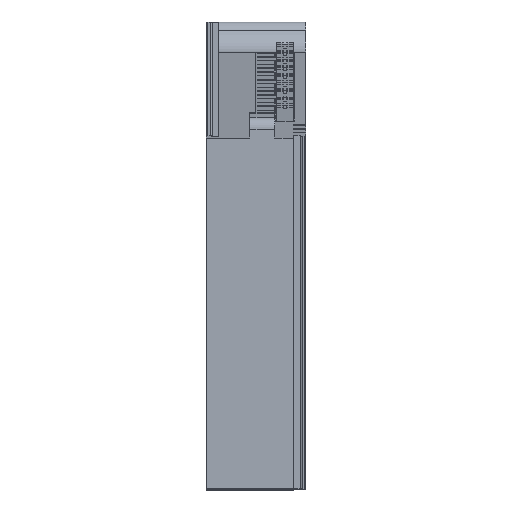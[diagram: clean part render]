
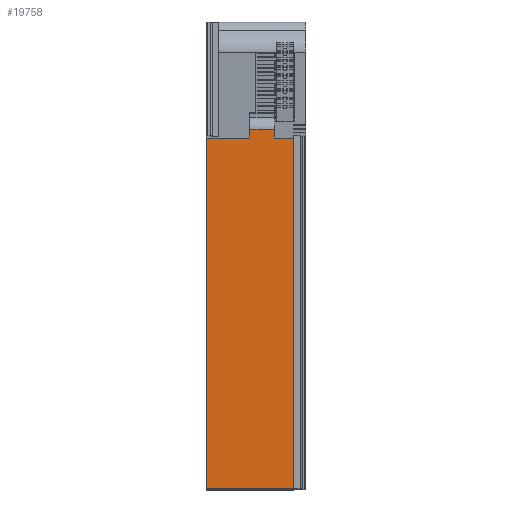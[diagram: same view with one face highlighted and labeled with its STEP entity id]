
A CAD part, top view. The second image highlights one B-rep face of the part: STEP entity #19758.
In plain terms, the highlighted planar face has unit normal (0, 0, 1).
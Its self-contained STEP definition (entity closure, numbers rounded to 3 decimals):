
#704 = VERTEX_POINT ( 'NONE', #16949 ) ;
#857 = CARTESIAN_POINT ( 'NONE',  ( 1887.845, 56.25, -1204.638 ) ) ;
#923 = LINE ( 'NONE', #22006, #18243 ) ;
#1018 = CARTESIAN_POINT ( 'NONE',  ( 1883.845, 57.618, -1204.638 ) ) ;
#1043 = CARTESIAN_POINT ( 'NONE',  ( 1876.845, 75., -1204.638 ) ) ;
#1102 = EDGE_CURVE ( 'NONE', #23203, #14170, #19669, .T. ) ;
#1331 = VECTOR ( 'NONE', #20160, 1000. ) ;
#1436 = VECTOR ( 'NONE', #9041, 1000. ) ;
#1792 = VECTOR ( 'NONE', #18323, 1000. ) ;
#2020 = EDGE_CURVE ( 'NONE', #2550, #704, #2308, .T. ) ;
#2205 = LINE ( 'NONE', #9918, #6654 ) ;
#2308 = LINE ( 'NONE', #21510, #10041 ) ;
#2548 = EDGE_CURVE ( 'NONE', #18685, #2645, #12257, .T. ) ;
#2550 = VERTEX_POINT ( 'NONE', #1018 ) ;
#2645 = VERTEX_POINT ( 'NONE', #20300 ) ;
#3095 = ORIENTED_EDGE ( 'NONE', *, *, #15335, .F. ) ;
#4337 = EDGE_CURVE ( 'NONE', #2550, #8583, #2205, .T. ) ;
#5125 = LINE ( 'NONE', #857, #1436 ) ;
#6399 = CARTESIAN_POINT ( 'NONE',  ( 1876.845, 0., -1204.638 ) ) ;
#6574 = ORIENTED_EDGE ( 'NONE', *, *, #4337, .F. ) ;
#6654 = VECTOR ( 'NONE', #21866, 1000. ) ;
#8176 = ORIENTED_EDGE ( 'NONE', *, *, #19751, .F. ) ;
#8583 = VERTEX_POINT ( 'NONE', #22414 ) ;
#8622 = DIRECTION ( 'NONE',  ( 1., 0., 0. ) ) ;
#8744 = DIRECTION ( 'NONE',  ( 0., 0., -1. ) ) ;
#9041 = DIRECTION ( 'NONE',  ( 0., -1., 0. ) ) ;
#9677 = ORIENTED_EDGE ( 'NONE', *, *, #1102, .F. ) ;
#9918 = CARTESIAN_POINT ( 'NONE',  ( 1883.845, 57.618, -1204.638 ) ) ;
#10041 = VECTOR ( 'NONE', #19620, 1000. ) ;
#10369 = CARTESIAN_POINT ( 'NONE',  ( 1876.845, 75., -1204.638 ) ) ;
#10524 = EDGE_CURVE ( 'NONE', #2645, #14170, #13857, .T. ) ;
#11845 = DIRECTION ( 'NONE',  ( 1., 0., 0. ) ) ;
#12203 = ORIENTED_EDGE ( 'NONE', *, *, #2020, .T. ) ;
#12257 = LINE ( 'NONE', #10369, #1792 ) ;
#13857 = LINE ( 'NONE', #6399, #21624 ) ;
#14152 = DIRECTION ( 'NONE',  ( 1., 0., 0. ) ) ;
#14170 = VERTEX_POINT ( 'NONE', #20046 ) ;
#15335 = EDGE_CURVE ( 'NONE', #8583, #18872, #5125, .T. ) ;
#16949 = CARTESIAN_POINT ( 'NONE',  ( 1883.845, 56.25, -1204.638 ) ) ;
#17958 = LINE ( 'NONE', #24127, #23857 ) ;
#18243 = VECTOR ( 'NONE', #8622, 1000. ) ;
#18323 = DIRECTION ( 'NONE',  ( 0., -1., 0. ) ) ;
#18348 = PLANE ( 'NONE',  #20628 ) ;
#18685 = VERTEX_POINT ( 'NONE', #18773 ) ;
#18773 = CARTESIAN_POINT ( 'NONE',  ( 1876.845, 56.25, -1204.638 ) ) ;
#18800 = CARTESIAN_POINT ( 'NONE',  ( 1890.845, 56.25, -1204.638 ) ) ;
#18872 = VERTEX_POINT ( 'NONE', #19152 ) ;
#19152 = CARTESIAN_POINT ( 'NONE',  ( 1887.845, 56.25, -1204.638 ) ) ;
#19620 = DIRECTION ( 'NONE',  ( 0., -1., 0. ) ) ;
#19669 = LINE ( 'NONE', #22057, #1331 ) ;
#19751 = EDGE_CURVE ( 'NONE', #18872, #23203, #923, .T. ) ;
#19758 = ADVANCED_FACE ( 'NONE', ( #21747 ), #18348, .F. ) ;
#19863 = DIRECTION ( 'NONE',  ( -1., 0., 0. ) ) ;
#20046 = CARTESIAN_POINT ( 'NONE',  ( 1890.845, 0., -1204.638 ) ) ;
#20160 = DIRECTION ( 'NONE',  ( 0., -1., 0. ) ) ;
#20300 = CARTESIAN_POINT ( 'NONE',  ( 1876.845, 0., -1204.638 ) ) ;
#20628 = AXIS2_PLACEMENT_3D ( 'NONE', #1043, #8744, #19863 ) ;
#20906 = EDGE_LOOP ( 'NONE', ( #9677, #8176, #3095, #6574, #12203, #23747, #24880, #22429 ) ) ;
#21510 = CARTESIAN_POINT ( 'NONE',  ( 1883.845, 56.25, -1204.638 ) ) ;
#21624 = VECTOR ( 'NONE', #11845, 1000. ) ;
#21747 = FACE_OUTER_BOUND ( 'NONE', #20906, .T. ) ;
#21866 = DIRECTION ( 'NONE',  ( 1., 0., 0. ) ) ;
#22006 = CARTESIAN_POINT ( 'NONE',  ( 1869.845, 56.25, -1204.638 ) ) ;
#22057 = CARTESIAN_POINT ( 'NONE',  ( 1890.845, 75., -1204.638 ) ) ;
#22237 = EDGE_CURVE ( 'NONE', #18685, #704, #17958, .T. ) ;
#22414 = CARTESIAN_POINT ( 'NONE',  ( 1887.845, 57.618, -1204.638 ) ) ;
#22429 = ORIENTED_EDGE ( 'NONE', *, *, #10524, .T. ) ;
#23203 = VERTEX_POINT ( 'NONE', #18800 ) ;
#23747 = ORIENTED_EDGE ( 'NONE', *, *, #22237, .F. ) ;
#23857 = VECTOR ( 'NONE', #14152, 1000. ) ;
#24127 = CARTESIAN_POINT ( 'NONE',  ( 1869.845, 56.25, -1204.638 ) ) ;
#24880 = ORIENTED_EDGE ( 'NONE', *, *, #2548, .T. ) ;
